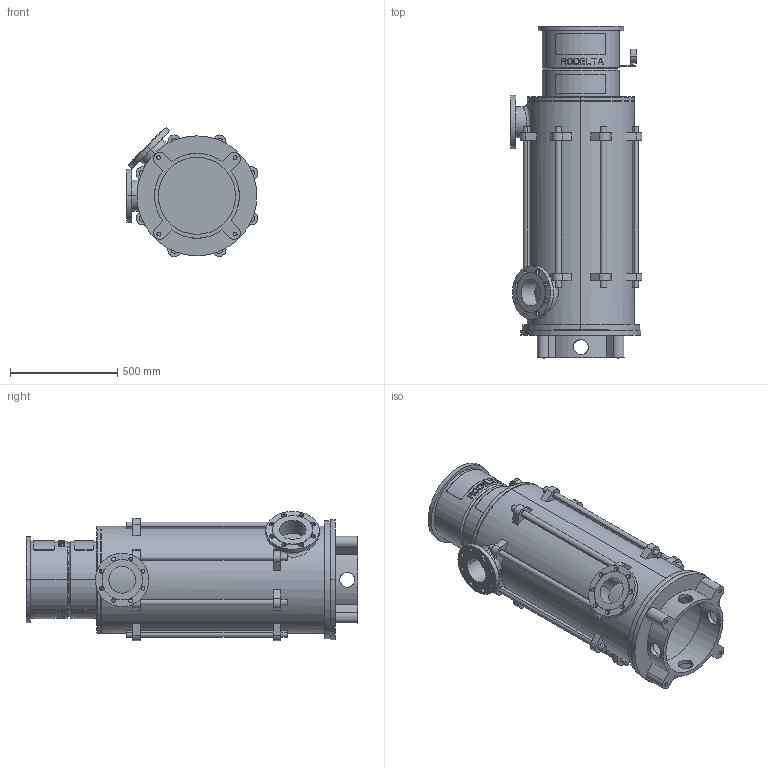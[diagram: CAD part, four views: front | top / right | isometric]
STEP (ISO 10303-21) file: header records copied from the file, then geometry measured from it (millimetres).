
FILE_DESCRIPTION((''),'2;1');
FILE_NAME('LS5_6TR_0GR_TOT_30KW','2023-08-08T',('Lyritlocal'),(''),'PRO/ENGINEER BY PARAMETRIC TECHNOLOGY CORPORATION, 2016360','PRO/ENGINEER BY PARAMETRIC TECHNOLOGY CORPORATION, 2016360','');
FILE_SCHEMA(('CONFIG_CONTROL_DESIGN'));
Length unit declared in the file: millimetre
Products named in the file (1): LS5_6TR_0GR_TOT_30KW
Bounding box: 614.04 x 1550 x 603.65 mm (x, y, z)
Volume: 42740458 mm3; surface area: 6335303 mm2
Topology: 3 solids, 7 shells, 672 faces, 1747 edges, 1158 vertices
Faces by surface type: plane 414, cylinder 242, cone 12, bspline 4
Entity records: 21913 total; most frequent: CARTESIAN_POINT 5469, ORIENTED_EDGE 3478, DIRECTION 3269, EDGE_CURVE 1747, AXIS2_PLACEMENT_3D 1241, VERTEX_POINT 1158, EDGE_LOOP 809, VECTOR 787
